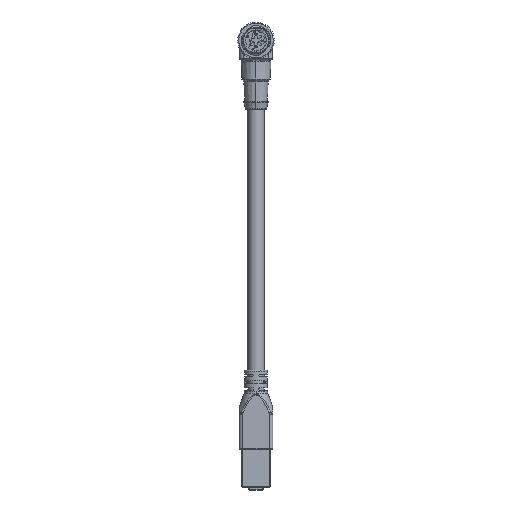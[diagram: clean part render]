
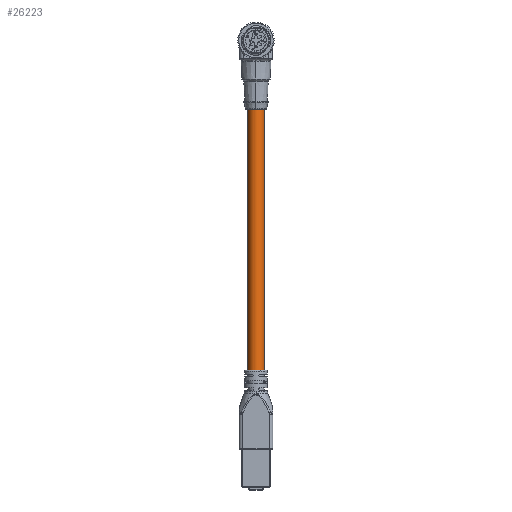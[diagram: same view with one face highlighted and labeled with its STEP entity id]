
A CAD part, left-side view. The second image highlights one B-rep face of the part: STEP entity #26223.
In plain terms, the highlighted cylindrical face has radius 3.25 mm (diameter 6.5 mm), a partial arc.
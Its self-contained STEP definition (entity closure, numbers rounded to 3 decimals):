
#2824 = ORIENTED_EDGE ( 'NONE', *, *, #56245, .F. ) ;
#4555 = VERTEX_POINT ( 'NONE', #49122 ) ;
#7013 = CARTESIAN_POINT ( 'NONE',  ( -7.588, -5.201, -79.519 ) ) ;
#7481 = DIRECTION ( 'NONE',  ( 0., 1., 0. ) ) ;
#7820 = CARTESIAN_POINT ( 'NONE',  ( -7.588, -1.951, -79.519 ) ) ;
#8788 = VERTEX_POINT ( 'NONE', #16741 ) ;
#9896 = EDGE_LOOP ( 'NONE', ( #21098, #2824, #56219, #34250 ) ) ;
#11545 = DIRECTION ( 'NONE',  ( 0., -1., 0. ) ) ;
#12550 = CARTESIAN_POINT ( 'NONE',  ( -7.588, -1.951, -82.519 ) ) ;
#13757 = LINE ( 'NONE', #45277, #46530 ) ;
#14138 = EDGE_CURVE ( 'NONE', #54975, #44088, #64241, .T. ) ;
#15338 = AXIS2_PLACEMENT_3D ( 'NONE', #12550, #49222, #55694 ) ;
#16741 = CARTESIAN_POINT ( 'NONE',  ( -7.588, 1.299, -188.519 ) ) ;
#18465 = CARTESIAN_POINT ( 'NONE',  ( -7.588, -5.201, -188.519 ) ) ;
#18666 = DIRECTION ( 'NONE',  ( 0., 0., 1. ) ) ;
#19907 = DIRECTION ( 'NONE',  ( 0., 0., -1. ) ) ;
#21098 = ORIENTED_EDGE ( 'NONE', *, *, #14138, .T. ) ;
#26223 = ADVANCED_FACE ( 'NONE', ( #39002 ), #59905, .T. ) ;
#26645 = DIRECTION ( 'NONE',  ( 0., 0., 1. ) ) ;
#31970 = CIRCLE ( 'NONE', #50586, 3.25 ) ;
#34250 = ORIENTED_EDGE ( 'NONE', *, *, #44253, .T. ) ;
#37035 = VECTOR ( 'NONE', #18666, 1000. ) ;
#39002 = FACE_OUTER_BOUND ( 'NONE', #9896, .T. ) ;
#39412 = AXIS2_PLACEMENT_3D ( 'NONE', #7820, #66029, #7481 ) ;
#44088 = VERTEX_POINT ( 'NONE', #53357 ) ;
#44253 = EDGE_CURVE ( 'NONE', #8788, #54975, #31970, .T. ) ;
#45277 = CARTESIAN_POINT ( 'NONE',  ( -7.588, 1.299, -79.519 ) ) ;
#46530 = VECTOR ( 'NONE', #19907, 1000. ) ;
#48185 = CIRCLE ( 'NONE', #15338, 3.25 ) ;
#49122 = CARTESIAN_POINT ( 'NONE',  ( -7.588, 1.299, -82.519 ) ) ;
#49222 = DIRECTION ( 'NONE',  ( 0., 0., 1. ) ) ;
#50586 = AXIS2_PLACEMENT_3D ( 'NONE', #58171, #26645, #11545 ) ;
#53357 = CARTESIAN_POINT ( 'NONE',  ( -7.588, -5.201, -82.519 ) ) ;
#54975 = VERTEX_POINT ( 'NONE', #18465 ) ;
#55694 = DIRECTION ( 'NONE',  ( 1., 0., 0. ) ) ;
#56219 = ORIENTED_EDGE ( 'NONE', *, *, #63610, .T. ) ;
#56245 = EDGE_CURVE ( 'NONE', #4555, #44088, #48185, .T. ) ;
#58171 = CARTESIAN_POINT ( 'NONE',  ( -7.588, -1.951, -188.519 ) ) ;
#59905 = CYLINDRICAL_SURFACE ( 'NONE', #39412, 3.25 ) ;
#63610 = EDGE_CURVE ( 'NONE', #4555, #8788, #13757, .T. ) ;
#64241 = LINE ( 'NONE', #7013, #37035 ) ;
#66029 = DIRECTION ( 'NONE',  ( 0., 0., -1. ) ) ;
